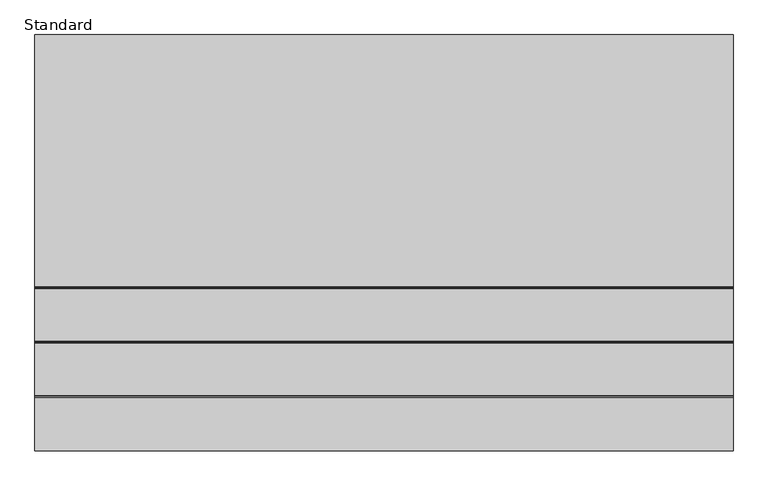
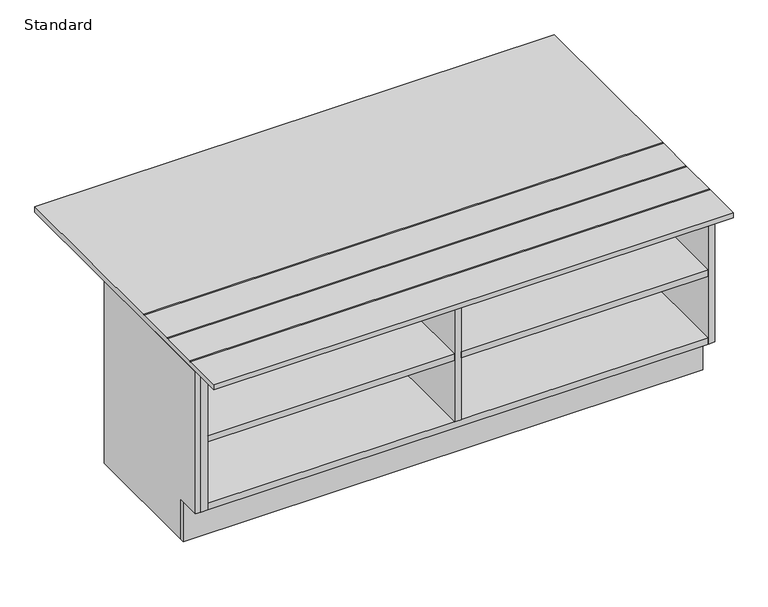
"""IFC4 building model written with IfcOpenShell, lengths in millimetres: furniture geometry, X_Locker-Duracube-Player Shoe Box : Standard."""

from ifc_helpers import new_model, si_unit, frame, origin, origin_with_axes, place, context, project, spatial, polyline, outline, extrude, source, transform, mapped, element, save


def standard_5b8814d3(model_context):
    return source(origin(), model_context, "Body", "SweptSolid", [
        extrude(outline(polyline([(-57.5, 457.0), (-792.5, 457.0), (-792.5, 470.0), (-698.5, 470.0), (-696.5, 468.0), (-694.5, 470.0), (-602.5, 470.0), (-600.5, 468.0), (-598.5, 470.0), (-506.5, 470.0), (-504.5, 468.0), (-502.5, 470.0), (-57.5, 470.0), (-57.5, 457.0)])), frame((-571.5496736, 0.0, 0.0), z_axis=(1.0, 0.0, 0.0), x_axis=(0.0, 1.0, 0.0)), (0.0, 0.0, 1.0), 1232.5),
        extrude(outline(polyline([(644.9503264, -358.5), (644.9503264, -717.5), (59.2003264, -717.5), (59.2003264, -358.5), (644.9503264, -358.5)])), frame((0.0, 0.0, 270.5), z_axis=(0.0, 0.0, 1.0), x_axis=(1.0, 0.0, 0.0)), (0.0, 0.0, 1.0), 16.0),
        extrude(outline(polyline([(59.2003264, -358.5), (59.2003264, -717.5), (43.2003264, -717.5), (43.2003264, -358.5), (59.2003264, -358.5)])), frame((0.0, 0.0, 116.0), z_axis=(0.0, 0.0, 1.0), x_axis=(1.0, 0.0, 0.0)), (0.0, 0.0, 1.0), 325.0),
        extrude(outline(polyline([(660.9503264, -358.5), (660.9503264, -717.5), (644.9503264, -717.5), (644.9503264, -358.5), (660.9503264, -358.5)])), frame((0.0, 0.0, 100.0), z_axis=(0.0, 0.0, 1.0), x_axis=(1.0, 0.0, 0.0)), (0.0, 0.0, 1.0), 357.0),
        extrude(outline(polyline([(-542.5496736, -358.5), (-542.5496736, -717.5), (-558.5496736, -717.5), (-558.5496736, -358.5), (-542.5496736, -358.5)])), frame((0.0, 0.0, 100.0), z_axis=(0.0, 0.0, 1.0), x_axis=(1.0, 0.0, 0.0)), (0.0, 0.0, 1.0), 357.0),
        extrude(outline(polyline([(43.2003264, -358.5), (43.2003264, -717.5), (-542.5496736, -717.5), (-542.5496736, -358.5), (43.2003264, -358.5)])), frame((0.0, 0.0, 270.5), z_axis=(0.0, 0.0, 1.0), x_axis=(1.0, 0.0, 0.0)), (0.0, 0.0, 1.0), 16.0),
        extrude(outline(polyline([(644.9503264, -358.5), (644.9503264, -717.5), (-542.5496736, -717.5), (-542.5496736, -358.5), (644.9503264, -358.5)])), frame((0.0, 0.0, 441.0), z_axis=(0.0, 0.0, 1.0), x_axis=(1.0, 0.0, 0.0)), (0.0, 0.0, 1.0), 16.0),
        extrude(outline(polyline([(644.9503264, -358.5), (644.9503264, -717.5), (-542.5496736, -717.5), (-542.5496736, -358.5), (644.9503264, -358.5)])), frame((0.0, 0.0, 100.0), z_axis=(0.0, 0.0, 1.0), x_axis=(1.0, 0.0, 0.0)), (0.0, 0.0, 1.0), 16.0),
        extrude(outline(polyline([(-717.5, 457.0), (-342.5, 457.0), (-342.5, 0.0), (-654.5, 0.0), (-654.5, 100.0), (-717.5, 100.0), (-717.5, 457.0)])), frame((-571.5496736, 0.0, 0.0), z_axis=(1.0, 0.0, 0.0), x_axis=(0.0, 1.0, 0.0)), (0.0, 0.0, 1.0), 13.0),
        extrude(outline(polyline([(660.9503264, -342.5), (660.9503264, -358.5), (-558.5496736, -358.5), (-558.5496736, -342.5), (660.9503264, -342.5)])), origin_with_axes(), (0.0, 0.0, 1.0), 457.0),
        extrude(outline(polyline([(660.9503264, -638.5), (660.9503264, -654.5), (-558.5496736, -654.5), (-558.5496736, -638.5), (660.9503264, -638.5)])), origin_with_axes(), (0.0, 0.0, 1.0), 100.0),
        extrude(outline(polyline([(660.9503264, -654.5), (660.9503264, -667.5), (-571.5496736, -667.5), (-571.5496736, -654.5), (660.9503264, -654.5)])), origin_with_axes(), (0.0, 0.0, 1.0), 100.0),
    ])


if __name__ == "__main__":
    model = new_model("IFC4")
    model_context = context("Model", 3, world=origin())
    ifc_project = project(units=[si_unit("LENGTHUNIT", "METRE", prefix="MILLI")], contexts=[model_context])
    site = spatial("IfcSite", under=ifc_project)
    building = spatial("IfcBuilding", under=site)
    placement = place(None, origin())
    standard_shape = standard_5b8814d3(model_context)
    element("IfcFurniture", 1, ObjectType="X_Locker-Duracube-Player Shoe Box : Standard", at=placement, inside=building, context=model_context, shape_type="MappedRepresentation", body=[
        mapped(standard_shape, transform((0.0, 0.0, 0.0), x_axis=(1.0, 0.0, 0.0), y_axis=(0.0, 1.0, 0.0), z_axis=(0.0, 0.0, 1.0))),
    ])
    save(model, "model.ifc")
